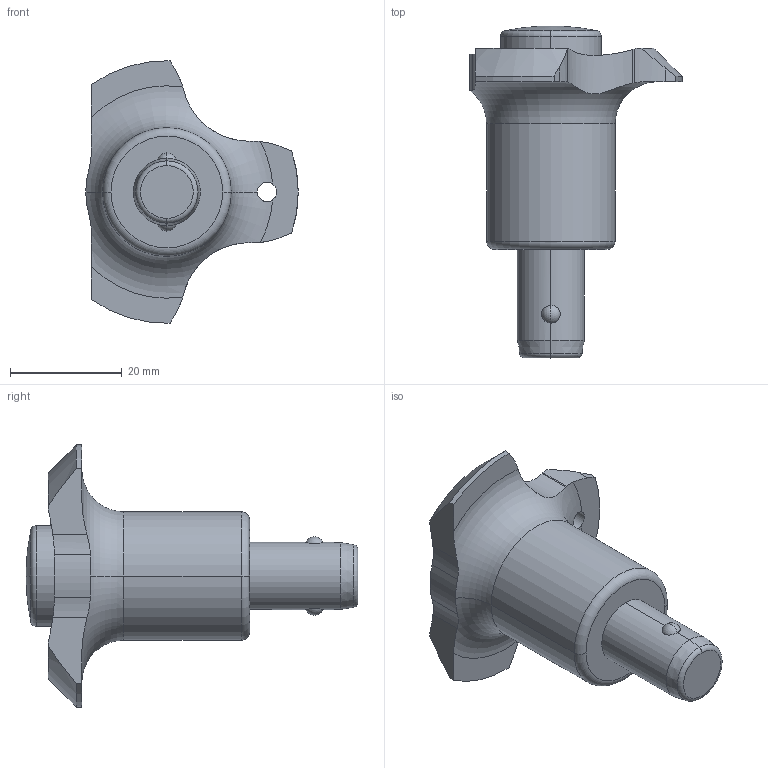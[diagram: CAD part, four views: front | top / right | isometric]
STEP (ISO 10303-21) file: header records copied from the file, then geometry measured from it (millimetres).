
FILE_DESCRIPTION (( 'STEP AP203' ), '1' );
FILE_NAME ('33180.W0042.step', '2025-01-06T11:15:29', ( '' ), ( '' ), 'SwSTEP 2.0', 'SolidWorks 2019', '' );
FILE_SCHEMA (( 'CONFIG_CONTROL_DESIGN' ));
Length unit declared in the file: millimetre
Products named in the file (4): 33180.W0042; Part3_33180.W0042; Part1_33180.W0042; Part2_33180.W0042
Assembly tree (3 placements, depth 2):
  33180.W0042
    Part1_33180.W0042
    Part2_33180.W0042
    Part3_33180.W0042
Bounding box: 38 x 59.4 x 46.99 mm (x, y, z)
Volume: 18604.6 mm3; surface area: 9718.8 mm2
Topology: 3 solids, 3 shells, 68 faces, 177 edges, 113 vertices
Faces by surface type: cylinder 26, plane 20, torus 8, sphere 8, cone 6
Entity records: 2833 total; most frequent: CARTESIAN_POINT 752, DIRECTION 369, ORIENTED_EDGE 354, EDGE_CURVE 177, AXIS2_PLACEMENT_3D 160, VERTEX_POINT 113, CIRCLE 86, EDGE_LOOP 70
